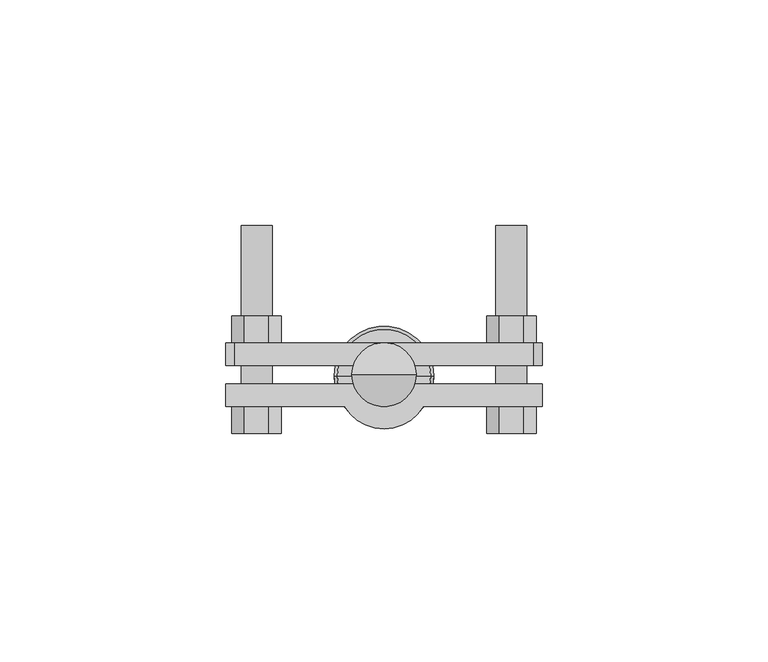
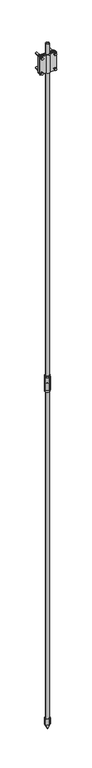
"""IFC4 building model written with IfcOpenShell, lengths in millimetres: proxy geometry, КНС_КомплектВертикальногоЗаземлителя_DKC : NE1114CC_Омеднённая сталь_3м."""

import ifcopenshell
import ifcopenshell.guid

model = None  # the IFC model being written
_history = None  # IfcOwnerHistory: only IFC2X3 demands one
_inside = {}  # id of a spatial element -> (the spatial element, [elements in it])
_under = {}  # id of a project, library or spatial element -> (it, [spatial elements below it])
_declared = {}  # id of a project -> (the project, [libraries it declares])
_typed = {}  # id of a type object -> (the type object, [elements of that type])
_made_of = {}  # id of a material, layer set ... -> (it, [elements and type objects made of it])


def new_model(schema):
    """Start an empty IFC model of exactly this schema.

    Asked for "IFC4X3", IfcOpenShell would pick the latest addendum, in which some entities
    have other attributes; the version numbers below select the first issue.
    IFC2X3 requires an IfcOwnerHistory on every rooted entity: one is made here for all.
    """
    global model, _history
    if schema == "IFC4X3":
        model = ifcopenshell.file(schema_version=(4, 3, 0, 0))
    else:
        model = ifcopenshell.file(schema=schema)
    _inside.clear()
    _under.clear()
    _declared.clear()
    _typed.clear()
    _made_of.clear()
    _history = None
    if model.schema == "IFC2X3":
        org = make("IfcOrganization", Name="unknown")
        user = make(
            "IfcPersonAndOrganization",
            ThePerson=make("IfcPerson", FamilyName="unknown"),
            TheOrganization=org,
        )
        app = make(
            "IfcApplication",
            ApplicationDeveloper=org,
            Version="unknown",
            ApplicationFullName="unknown",
            ApplicationIdentifier="unknown",
        )
        _history = make(
            "IfcOwnerHistory",
            OwningUser=user,
            OwningApplication=app,
            ChangeAction="ADDED",
            CreationDate=0,
        )
    return model


def make(cls, **values):
    """One entity of the class cls with the attributes given. An attribute that is None is left unset."""
    return model.create_entity(
        cls, **{name: value for name, value in values.items() if value is not None}
    )


def rooted(cls, **values):
    """An entity with a GlobalId (a new one), such as an element, a storey or a relation."""
    return make(cls, GlobalId=ifcopenshell.guid.new(), OwnerHistory=_history, **values)


def si_unit(unit_type, name, prefix=None):
    """IfcSIUnit, for example si_unit("LENGTHUNIT", "METRE", prefix="MILLI")."""
    return make("IfcSIUnit", UnitType=unit_type, Prefix=prefix, Name=name)


def assignment(units):
    """IfcUnitAssignment: the units of a project."""
    return None if units is None else make("IfcUnitAssignment", Units=units)


def point(xyz):
    """IfcCartesianPoint."""
    return None if xyz is None else make("IfcCartesianPoint", Coordinates=xyz)


def direction(xyz):
    """IfcDirection."""
    return None if xyz is None else make("IfcDirection", DirectionRatios=xyz)


def frame(location, z_axis=None, x_axis=None):
    """IfcAxis2Placement3D, a coordinate frame: its origin and axes. An axis left out is left unset."""
    return make(
        "IfcAxis2Placement3D",
        Location=point(location),
        Axis=direction(z_axis),
        RefDirection=direction(x_axis),
    )


def frame_2d(location, x_axis=None):
    """IfcAxis2Placement2D, a coordinate frame in the plane: its origin and x axis."""
    return make(
        "IfcAxis2Placement2D", Location=point(location), RefDirection=direction(x_axis)
    )


def origin():
    """The frame at (0, 0, 0) with its axes left unset."""
    return frame((0.0, 0.0, 0.0))


def place(relative_to, where):
    """IfcLocalPlacement: puts the frame where relative to a parent placement (None: the world)."""
    return make(
        "IfcLocalPlacement", PlacementRelTo=relative_to, RelativePlacement=where
    )


def context(
    kind, dimensions, precision=None, world=None, true_north=None, identifier=None
):
    """IfcGeometricRepresentationContext, for example the 3D "Model" context."""
    return make(
        "IfcGeometricRepresentationContext",
        ContextIdentifier=identifier,
        ContextType=kind,
        CoordinateSpaceDimension=dimensions,
        Precision=precision,
        WorldCoordinateSystem=world,
        TrueNorth=true_north,
    )


def project(units=None, contexts=None):
    """IfcProject with its units and contexts."""
    return rooted(
        "IfcProject",
        Name="project",
        RepresentationContexts=contexts,
        UnitsInContext=assignment(units),
    )


def spatial(cls, under=None, at=None, **own):
    """A site, building, storey or space (cls), placed at a placement, below another one or the project."""
    s = rooted(cls, ObjectPlacement=at, **own)
    if under is not None:
        _under.setdefault(under.id(), (under, []))[1].append(s)
    return s


def polyline(points):
    """IfcPolyline through the points."""
    return make("IfcPolyline", Points=[point(p) for p in points])


def circle_curve(where, radius):
    """IfcCircle in the frame where."""
    return make("IfcCircle", Position=where, Radius=radius)


def trimmed(basis, trim1, trim2, sense, master):
    """IfcTrimmedCurve: the piece of a basis curve between two trims."""
    return make(
        "IfcTrimmedCurve",
        BasisCurve=basis,
        Trim1=trim1,
        Trim2=trim2,
        SenseAgreement=sense,
        MasterRepresentation=master,
    )


def segment(curve, same_sense, transition):
    """IfcCompositeCurveSegment."""
    return make(
        "IfcCompositeCurveSegment",
        Transition=transition,
        SameSense=same_sense,
        ParentCurve=curve,
    )


def composite_curve(segments, self_intersect=None):
    """IfcCompositeCurve: segments joined end to end."""
    return make("IfcCompositeCurve", Segments=segments, SelfIntersect=self_intersect)


def outline(outer, holes=None, kind="AREA"):
    """IfcArbitraryClosedProfileDef: a profile drawn as a closed curve; with holes, ...WithVoids."""
    if holes is None:
        return make("IfcArbitraryClosedProfileDef", ProfileType=kind, OuterCurve=outer)
    return make(
        "IfcArbitraryProfileDefWithVoids",
        ProfileType=kind,
        OuterCurve=outer,
        InnerCurves=holes,
    )


def extrude(swept, where, along, depth):
    """IfcExtrudedAreaSolid: the profile swept, set in the frame where, extruded along a direction by depth."""
    return make(
        "IfcExtrudedAreaSolid",
        SweptArea=swept,
        Position=where,
        ExtrudedDirection=direction(along),
        Depth=depth,
    )


def shape(context_of_items, identifier, shape_type, items):
    """IfcShapeRepresentation: the items that make up one representation, for example the "Body"."""
    return make(
        "IfcShapeRepresentation",
        ContextOfItems=context_of_items,
        RepresentationIdentifier=identifier,
        RepresentationType=shape_type,
        Items=items,
    )


def source(mapping_origin, context_of_items, identifier, shape_type, items):
    """IfcRepresentationMap: a shape defined once, which mapped items show again and again."""
    return make(
        "IfcRepresentationMap",
        MappingOrigin=mapping_origin,
        MappedRepresentation=shape(context_of_items, identifier, shape_type, items),
    )


def transform(
    local_origin,
    x_axis=None,
    y_axis=None,
    z_axis=None,
    scale=None,
    scale2=None,
    scale3=None,
    uniform=True,
):
    """IfcCartesianTransformationOperator3D, or its non-uniform kind. x_axis, y_axis, z_axis: its Axis1, 2, 3."""
    if uniform:
        return make(
            "IfcCartesianTransformationOperator3D",
            Axis1=direction(x_axis),
            Axis2=direction(y_axis),
            LocalOrigin=point(local_origin),
            Scale=scale,
            Axis3=direction(z_axis),
        )
    return make(
        "IfcCartesianTransformationOperator3DnonUniform",
        Axis1=direction(x_axis),
        Axis2=direction(y_axis),
        LocalOrigin=point(local_origin),
        Scale=scale,
        Axis3=direction(z_axis),
        Scale2=scale2,
        Scale3=scale3,
    )


def mapped(mapping_source, mapping_target):
    """IfcMappedItem: shows the shape of a source again, moved by a transform."""
    return make(
        "IfcMappedItem", MappingSource=mapping_source, MappingTarget=mapping_target
    )


def made_of(thing, what):
    """Note that an element or type object is made of a material, layer set ...; save() writes the relation."""
    if what is not None:
        _made_of.setdefault(what.id(), (what, []))[1].append(thing)
    return thing


def element(
    cls,
    number,
    at=None,
    inside=None,
    cuts=None,
    type_object=None,
    material=None,
    context=None,
    identifier="Body",
    shape_type=None,
    held_by="IfcProductDefinitionShape",
    body=None,
    shapes=None,
    **own,
):
    """One element of the class cls, such as IfcWall. Its Tag is "e" and its number.

    at: its placement. inside: the storey or other place that contains it. cuts: it is an
    opening in that element (IfcRelVoidsElement). A single representation is given by context,
    identifier, shape_type and body (its items); several are given by shapes. held_by: the class
    of the entity that holds the representations. save() writes the other relations.
    """
    e = rooted(cls, Tag="e%d" % number, ObjectPlacement=at, **own)
    if body is not None:
        shapes = [shape(context, identifier, shape_type, body)]
    if shapes is not None:
        e.Representation = make(held_by, Representations=shapes)
    if inside is not None:
        _inside.setdefault(inside.id(), (inside, []))[1].append(e)
    if cuts is not None:
        rooted(
            "IfcRelVoidsElement", RelatingBuildingElement=cuts, RelatedOpeningElement=e
        )
    if type_object is not None:
        _typed.setdefault(type_object.id(), (type_object, []))[1].append(e)
    return made_of(e, material)


def aggregate(whole, parts):
    """IfcRelAggregates: a whole, such as a stair, and the parts it consists of."""
    return rooted("IfcRelAggregates", RelatingObject=whole, RelatedObjects=parts)


def save(model, path):
    """Write the relations noted so far, then the file.

    IfcRelAggregates (storeys below a building ...), IfcRelContainedInSpatialStructure (elements
    in a storey), IfcRelDefinesByType, IfcRelAssociatesMaterial and IfcRelDeclares: one each for
    every whole, place, type object, material and project.
    """
    for whole, parts in _under.values():
        aggregate(whole, parts)
    for where, things in _inside.values():
        rooted(
            "IfcRelContainedInSpatialStructure",
            RelatedElements=things,
            RelatingStructure=where,
        )
    for kind, things in _typed.values():
        rooted("IfcRelDefinesByType", RelatedObjects=things, RelatingType=kind)
    for what, things in _made_of.values():
        rooted("IfcRelAssociatesMaterial", RelatedObjects=things, RelatingMaterial=what)
    for by, libraries in _declared.values():
        rooted("IfcRelDeclares", RelatingContext=by, RelatedDefinitions=libraries)
    model.write(path)


def plane_surface(at):
    """IfcPlane: the flat surface through the origin of the frame at, square to its z axis."""
    return make("IfcPlane", Position=at)


def cylinder_surface(at, radius):
    """IfcCylindricalSurface: all points at the distance radius from the z axis of the frame at."""
    return make("IfcCylindricalSurface", Position=at, Radius=radius)


def revolved_surface(curve, axis_point, axis_direction):
    """IfcSurfaceOfRevolution: the curve turned about the line through axis_point along axis_direction."""
    return make(
        "IfcSurfaceOfRevolution",
        SweptCurve=make("IfcArbitraryOpenProfileDef", ProfileType="CURVE", Curve=curve),
        AxisPosition=make("IfcAxis1Placement", Location=point(axis_point), Axis=direction(axis_direction)),
    )


def advanced_brep(points, edges, surfaces, faces):
    """IfcAdvancedBrep: a solid bounded by faces that lie on surfaces and meet in shared edges.

    An edge is (start, end): straight between two places in points (the first is 0);
    or (start, end, curve); or (start, end, curve, False) where it runs against its curve.
    A face is (place in surfaces, loops), or (place, loops, False) where it looks against
    its surface's normal. A loop lists edges by number (the first is 1), with a minus sign
    where the edge is run from its end to its start. The first loop is the outer one.
    """
    corners = [point(p) for p in points]
    vertices = [make("IfcVertexPoint", VertexGeometry=c) for c in corners]
    made = []
    for start, end, *more in edges:
        made.append(
            make(
                "IfcEdgeCurve",
                EdgeStart=vertices[start],
                EdgeEnd=vertices[end],
                EdgeGeometry=more[0] if more else make("IfcPolyline", Points=[corners[start], corners[end]]),
                SameSense=more[1] if len(more) > 1 else True,
            )
        )
    hull = []
    for where, loops, *sense in faces:
        bounds = []
        for j, loop in enumerate(loops):
            ring = [make("IfcOrientedEdge", EdgeElement=made[abs(k) - 1], Orientation=k > 0) for k in loop]
            bounds.append(
                make(
                    "IfcFaceOuterBound" if j == 0 else "IfcFaceBound",
                    Bound=make("IfcEdgeLoop", EdgeList=ring),
                    Orientation=True,
                )
            )
        hull.append(make("IfcAdvancedFace", Bounds=bounds, FaceSurface=surfaces[where], SameSense=sense[0] if sense else True))
    return make("IfcAdvancedBrep", Outer=make("IfcClosedShell", CfsFaces=hull))


def security_devices_c975d54c(model_context):
    return source(origin(), model_context, "Body", "SolidModel", [
        extrude(outline(composite_curve([segment(polyline([(-35.0, -7.0), (-35.0, -2.0), (-5.0, -2.0)]), True, "CONTINUOUS"), segment(trimmed(circle_curve(frame_2d((0.0, -2.0)), 5.0), [point((-5.0, -2.0))], [point((5.0, -2.0))], True, "CARTESIAN"), True, "CONTINUOUS"), segment(polyline([(5.0, -2.0), (35.0, -2.0), (35.0, -7.0), (8.660254, -7.0)]), True, "CONTINUOUS"), segment(trimmed(circle_curve(frame_2d((0.0, -2.0)), 10.0), [point((8.660254, -7.0))], [point((-8.660254, -7.0))], False, "CARTESIAN"), True, "CONTINUOUS"), segment(polyline([(-8.660254, -7.0), (-35.0, -7.0)]), True, "CONTINUOUS")], self_intersect=False)), frame((0.0, 0.0, 2960.0), z_axis=(0.0, 0.0, 1.0), x_axis=(1.0, 0.0, 0.0)), (0.0, 0.0, 1.0), 80.0),
        extrude(outline(composite_curve([segment(trimmed(circle_curve(frame_2d((3033.28125, -28.2121057)), 3.4209609), [point((3033.28125, -31.6330666))], [point((3033.28125, -24.7911448))], False, "CARTESIAN"), True, "CONTINUOUS"), segment(trimmed(circle_curve(frame_2d((3033.28125, -28.2121057)), 3.4209609), [point((3033.28125, -24.7911448))], [point((3033.28125, -31.6330666))], False, "CARTESIAN"), True, "CONTINUOUS")], self_intersect=False)), frame((0.0, -7.0, 0.0), z_axis=(0.0, 1.0, 0.0), x_axis=(0.0, 0.0, 1.0)), (0.0, 0.0, 1.0), 40.0),
        extrude(outline(composite_curve([segment(trimmed(circle_curve(frame_2d((3033.28125, 28.2121057)), 3.4209609), [point((3033.28125, 24.7911448))], [point((3033.28125, 31.6330666))], False, "CARTESIAN"), True, "CONTINUOUS"), segment(trimmed(circle_curve(frame_2d((3033.28125, 28.2121057)), 3.4209609), [point((3033.28125, 31.6330666))], [point((3033.28125, 24.7911448))], False, "CARTESIAN"), True, "CONTINUOUS")], self_intersect=False)), frame((0.0, -7.0, 0.0), z_axis=(0.0, 1.0, 0.0), x_axis=(0.0, 0.0, 1.0)), (0.0, 0.0, 1.0), 40.0),
        extrude(outline(composite_curve([segment(trimmed(circle_curve(frame_2d((2966.71875, -28.2121057)), 3.4209609), [point((2966.71875, -31.6330666))], [point((2966.71875, -24.7911448))], False, "CARTESIAN"), True, "CONTINUOUS"), segment(trimmed(circle_curve(frame_2d((2966.71875, -28.2121057)), 3.4209609), [point((2966.71875, -24.7911448))], [point((2966.71875, -31.6330666))], False, "CARTESIAN"), True, "CONTINUOUS")], self_intersect=False)), frame((0.0, -7.0, 0.0), z_axis=(0.0, 1.0, 0.0), x_axis=(0.0, 0.0, 1.0)), (0.0, 0.0, 1.0), 40.0),
        extrude(outline(composite_curve([segment(trimmed(circle_curve(frame_2d((2966.71875, 28.2121057)), 3.4209609), [point((2966.71875, 24.7911448))], [point((2966.71875, 31.6330666))], False, "CARTESIAN"), True, "CONTINUOUS"), segment(trimmed(circle_curve(frame_2d((2966.71875, 28.2121057)), 3.4209609), [point((2966.71875, 31.6330666))], [point((2966.71875, 24.7911448))], False, "CARTESIAN"), True, "CONTINUOUS")], self_intersect=False)), frame((0.0, -7.0, 0.0), z_axis=(0.0, 1.0, 0.0), x_axis=(0.0, 0.0, 1.0)), (0.0, 0.0, 1.0), 40.0),
        extrude(outline(polyline([(3033.3883083, -33.6996224), (3028.6359794, -30.955864), (3028.6359794, -25.4683473), (3033.3883083, -22.724589), (3038.1406371, -25.4683473), (3038.1406371, -30.955864), (3033.3883083, -33.6996224)])), frame((0.0, 7.0, 0.0), z_axis=(0.0, 1.0, 0.0), x_axis=(0.0, 0.0, 1.0)), (0.0, 0.0, 1.0), 6.0),
        extrude(outline(polyline([(3033.3883083, 33.6996224), (3038.1406371, 30.955864), (3038.1406371, 25.4683473), (3033.3883083, 22.724589), (3028.6359794, 25.4683473), (3028.6359794, 30.955864), (3033.3883083, 33.6996224)])), frame((0.0, 7.0, 0.0), z_axis=(0.0, 1.0, 0.0), x_axis=(0.0, 0.0, 1.0)), (0.0, 0.0, 1.0), 6.0),
        extrude(outline(polyline([(2966.6116917, -33.6996224), (2961.8593629, -30.955864), (2961.8593629, -25.4683473), (2966.6116917, -22.724589), (2971.3640206, -25.4683473), (2971.3640206, -30.955864), (2966.6116917, -33.6996224)])), frame((0.0, 7.0, 0.0), z_axis=(0.0, 1.0, 0.0), x_axis=(0.0, 0.0, 1.0)), (0.0, 0.0, 1.0), 6.0),
        extrude(outline(polyline([(2966.6116917, 33.6996224), (2971.3640206, 30.955864), (2971.3640206, 25.4683473), (2966.6116917, 22.724589), (2961.8593629, 25.4683473), (2961.8593629, 30.955864), (2966.6116917, 33.6996224)])), frame((0.0, 7.0, 0.0), z_axis=(0.0, 1.0, 0.0), x_axis=(0.0, 0.0, 1.0)), (0.0, 0.0, 1.0), 6.0),
        extrude(outline(polyline([(3033.3883083, -33.6996224), (3028.6359794, -30.955864), (3028.6359794, -25.4683473), (3033.3883083, -22.724589), (3038.1406371, -25.4683473), (3038.1406371, -30.955864), (3033.3883083, -33.6996224)])), frame((0.0, -13.0, 0.0), z_axis=(0.0, 1.0, 0.0), x_axis=(0.0, 0.0, 1.0)), (0.0, 0.0, 1.0), 6.0),
        extrude(outline(polyline([(3033.3883083, 33.6996224), (3038.1406371, 30.955864), (3038.1406371, 25.4683473), (3033.3883083, 22.724589), (3028.6359794, 25.4683473), (3028.6359794, 30.955864), (3033.3883083, 33.6996224)])), frame((0.0, -13.0, 0.0), z_axis=(0.0, 1.0, 0.0), x_axis=(0.0, 0.0, 1.0)), (0.0, 0.0, 1.0), 6.0),
        extrude(outline(polyline([(2966.6116917, -33.6996224), (2961.8593629, -30.955864), (2961.8593629, -25.4683473), (2966.6116917, -22.724589), (2971.3640206, -25.4683473), (2971.3640206, -30.955864), (2966.6116917, -33.6996224)])), frame((0.0, -13.0, 0.0), z_axis=(0.0, 1.0, 0.0), x_axis=(0.0, 0.0, 1.0)), (0.0, 0.0, 1.0), 6.0),
        extrude(outline(polyline([(2966.6116917, 33.6996224), (2971.3640206, 30.955864), (2971.3640206, 25.4683473), (2966.6116917, 22.724589), (2961.8593629, 25.4683473), (2961.8593629, 30.955864), (2966.6116917, 33.6996224)])), frame((0.0, -13.0, 0.0), z_axis=(0.0, 1.0, 0.0), x_axis=(0.0, 0.0, 1.0)), (0.0, 0.0, 1.0), 6.0),
        extrude(outline(composite_curve([segment(polyline([(3040.0, 33.0), (3040.0, -33.0)]), True, "CONTINUOUS"), segment(trimmed(circle_curve(frame_2d((3038.0, -33.0)), 2.0), [point((3040.0, -33.0))], [point((3038.0, -35.0))], False, "CARTESIAN"), True, "CONTINUOUS"), segment(polyline([(3038.0, -35.0), (2962.0, -35.0)]), True, "CONTINUOUS"), segment(trimmed(circle_curve(frame_2d((2962.0, -33.0)), 2.0), [point((2962.0, -35.0))], [point((2960.0, -33.0))], False, "CARTESIAN"), True, "CONTINUOUS"), segment(polyline([(2960.0, -33.0), (2960.0, 33.0)]), True, "CONTINUOUS"), segment(trimmed(circle_curve(frame_2d((2962.0, 33.0)), 2.0), [point((2960.0, 33.0))], [point((2962.0, 35.0))], False, "CARTESIAN"), True, "CONTINUOUS"), segment(polyline([(2962.0, 35.0), (3038.0, 35.0)]), True, "CONTINUOUS"), segment(trimmed(circle_curve(frame_2d((3038.0, 33.0)), 2.0), [point((3038.0, 35.0))], [point((3040.0, 33.0))], False, "CARTESIAN"), True, "CONTINUOUS")], self_intersect=False)), frame((0.0, 2.0, 0.0), z_axis=(0.0, 1.0, 0.0), x_axis=(0.0, 0.0, 1.0)), (0.0, 0.0, 1.0), 5.0),
        advanced_brep(
        [(-10.3, 0.0, 1522.0), (10.3, 0.0, 1522.0), (7.1, 0.0, 1522.0), (-7.1, 0.0, 1522.0), (-11.0, 0.0, 1529.0), (11.0, 0.0, 1529.0), (-11.0, 0.0, 1585.0), (11.0, 0.0, 1585.0), (-10.3, 0.0, 1592.0), (10.3, 0.0, 1592.0), (-7.1, 0.0, 1592.0), (7.1, 0.0, 1592.0)],
        [
            (0, 1, circle_curve(frame((0.0, 0.0, 1522.0), z_axis=(0.0, 0.0, -1.0), x_axis=(1.0, 0.0, 0.0)), 10.3)),
            (1, 2),
            (2, 3, circle_curve(frame((0.0, 0.0, 1522.0), z_axis=(0.0, 0.0, 1.0), x_axis=(1.0, 0.0, 0.0)), 7.1)),
            (3, 0),
            (1, 0, circle_curve(frame((0.0, 0.0, 1522.0), z_axis=(0.0, 0.0, -1.0), x_axis=(1.0, 0.0, 0.0)), 10.3)),
            (3, 2, circle_curve(frame((0.0, 0.0, 1522.0), z_axis=(0.0, 0.0, 1.0), x_axis=(1.0, 0.0, 0.0)), 7.1)),
            (4, 5, circle_curve(frame((0.0, 0.0, 1529.0), z_axis=(0.0, 0.0, -1.0), x_axis=(1.0, 0.0, 0.0)), 11.0)),
            (5, 1),
            (0, 4),
            (5, 4, circle_curve(frame((0.0, 0.0, 1529.0), z_axis=(0.0, 0.0, -1.0), x_axis=(1.0, 0.0, 0.0)), 11.0)),
            (6, 7, circle_curve(frame((0.0, 0.0, 1585.0), z_axis=(0.0, 0.0, -1.0), x_axis=(1.0, 0.0, 0.0)), 11.0)),
            (7, 5),
            (4, 6),
            (7, 6, circle_curve(frame((0.0, 0.0, 1585.0), z_axis=(0.0, 0.0, -1.0), x_axis=(1.0, 0.0, 0.0)), 11.0)),
            (8, 9, circle_curve(frame((0.0, 0.0, 1592.0), z_axis=(0.0, 0.0, -1.0), x_axis=(1.0, 0.0, 0.0)), 10.3)),
            (9, 7),
            (6, 8),
            (9, 8, circle_curve(frame((0.0, 0.0, 1592.0), z_axis=(0.0, 0.0, -1.0), x_axis=(1.0, 0.0, 0.0)), 10.3)),
            (10, 11, circle_curve(frame((0.0, 0.0, 1592.0), z_axis=(0.0, 0.0, -1.0), x_axis=(1.0, 0.0, 0.0)), 7.1)),
            (11, 9),
            (8, 10),
            (11, 10, circle_curve(frame((0.0, 0.0, 1592.0), z_axis=(0.0, 0.0, -1.0), x_axis=(1.0, 0.0, 0.0)), 7.1)),
            (2, 11),
            (10, 3),
        ],
        [
            plane_surface(frame((0.0, 0.0, 1522.0), z_axis=(0.0, 0.0, -1.0), x_axis=(1.0, 0.0, 0.0))),
            revolved_surface(polyline([(10.3, 0.0, 1522.0), (11.0, 0.0, 1529.0)]), (0.0, 0.0, 1567.0), (0.0, 0.0, 1.0)),
            cylinder_surface(frame((0.0, 0.0, 1567.0), z_axis=(0.0, 0.0, 1.0), x_axis=(1.0, 0.0, 0.0)), 11.0),
            revolved_surface(polyline([(11.0, 0.0, 1585.0), (10.3, 0.0, 1592.0)]), (0.0, 0.0, 1567.0), (0.0, 0.0, 1.0)),
            plane_surface(frame((0.0, 0.0, 1592.0), z_axis=(0.0, 0.0, 1.0), x_axis=(1.0, 0.0, 0.0))),
            revolved_surface(polyline([(7.1, 0.0, 1592.0), (7.1, 0.0, 1522.0)]), (0.0, 0.0, 1567.0), (0.0, 0.0, 1.0)),
        ],
        [
            (0, [[1, 2, 3, 4]]),
            (0, [[5, -4, 6, -2]]),
            (1, [[7, 8, -1, 9]]),
            (1, [[10, -9, -5, -8]]),
            (2, [[11, 12, -7, 13]]),
            (2, [[14, -13, -10, -12]]),
            (3, [[15, 16, -11, 17]]),
            (3, [[18, -17, -14, -16]]),
            (4, [[19, 20, -15, 21]]),
            (4, [[22, -21, -18, -20]]),
            (5, [[-3, 23, -19, 24]]),
            (5, [[-6, -24, -22, -23]]),
        ],
    ),
        advanced_brep(
        [(-7.1, 0.0, 3087.0), (7.1, 0.0, 3087.0), (7.1, 0.0, 1562.0), (-7.1, 0.0, 1562.0), (0.0, 0.0, 3092.0), (0.0, 0.0, 1557.0)],
        [
            (0, 1, circle_curve(frame((0.0, 0.0, 3087.0), z_axis=(0.0, 0.0, -1.0), x_axis=(1.0, 0.0, 0.0)), 7.1)),
            (1, 2),
            (2, 3, circle_curve(frame((0.0, 0.0, 1562.0), z_axis=(0.0, 0.0, 1.0), x_axis=(1.0, 0.0, 0.0)), 7.1)),
            (3, 0),
            (1, 0, circle_curve(frame((0.0, 0.0, 3087.0), z_axis=(0.0, 0.0, -1.0), x_axis=(1.0, 0.0, 0.0)), 7.1)),
            (3, 2, circle_curve(frame((0.0, 0.0, 1562.0), z_axis=(0.0, 0.0, 1.0), x_axis=(1.0, 0.0, 0.0)), 7.1)),
            (4, 1),
            (0, 4),
            (2, 5),
            (5, 3),
        ],
        [
            cylinder_surface(frame((0.0, 0.0, 3077.0), z_axis=(0.0, 0.0, 1.0), x_axis=(1.0, 0.0, 0.0)), 7.1),
            revolved_surface(polyline([(7.1, 0.0, 3087.0), (0.0, 0.0, 3092.0)]), (0.0, 0.0, 3077.0), (0.0, 0.0, 1.0)),
            revolved_surface(polyline([(0.0, 0.0, 1557.0), (7.1, 0.0, 1562.0)]), (0.0, 0.0, 3077.0), (0.0, 0.0, 1.0)),
        ],
        [
            (0, [[1, 2, 3, 4]]),
            (0, [[5, -4, 6, -2]]),
            (1, [[7, -1, 8]]),
            (1, [[-8, -5, -7]]),
            (2, [[-3, 9, 10]]),
            (2, [[-6, -10, -9]]),
        ],
    ),
        advanced_brep(
        [(-7.1, 0.0, 1552.0), (7.1, 0.0, 1552.0), (7.1, 0.0, 27.0), (-7.1, 0.0, 27.0), (0.0, 0.0, 1557.0), (0.0, 0.0, 22.0)],
        [
            (0, 1, circle_curve(frame((0.0, 0.0, 1552.0), z_axis=(0.0, 0.0, -1.0), x_axis=(1.0, 0.0, 0.0)), 7.1)),
            (1, 2),
            (2, 3, circle_curve(frame((0.0, 0.0, 27.0), z_axis=(0.0, 0.0, 1.0), x_axis=(1.0, 0.0, 0.0)), 7.1)),
            (3, 0),
            (1, 0, circle_curve(frame((0.0, 0.0, 1552.0), z_axis=(0.0, 0.0, -1.0), x_axis=(1.0, 0.0, 0.0)), 7.1)),
            (3, 2, circle_curve(frame((0.0, 0.0, 27.0), z_axis=(0.0, 0.0, 1.0), x_axis=(1.0, 0.0, 0.0)), 7.1)),
            (4, 1),
            (0, 4),
            (2, 5),
            (5, 3),
        ],
        [
            cylinder_surface(frame((0.0, 0.0, 1542.0), z_axis=(0.0, 0.0, 1.0), x_axis=(1.0, 0.0, 0.0)), 7.1),
            revolved_surface(polyline([(7.1, 0.0, 1552.0), (0.0, 0.0, 1557.0)]), (0.0, 0.0, 1542.0), (0.0, 0.0, 1.0)),
            revolved_surface(polyline([(0.0, 0.0, 22.0), (7.1, 0.0, 27.0)]), (0.0, 0.0, 1542.0), (0.0, 0.0, 1.0)),
        ],
        [
            (0, [[1, 2, 3, 4]]),
            (0, [[5, -4, 6, -2]]),
            (1, [[7, -1, 8]]),
            (1, [[-8, -5, -7]]),
            (2, [[-3, 9, 10]]),
            (2, [[-6, -10, -9]]),
        ],
    ),
        advanced_brep(
        [(-7.1, 0.0, 49.0), (7.1, 0.0, 49.0), (11.0, 0.0, 49.0), (-11.0, 0.0, 49.0), (-7.1, 0.0, 22.0), (7.1, 0.0, 22.0), (0.0, 0.0, 22.0), (-11.0, 0.0, 23.0), (11.0, 0.0, 23.0), (0.0, 0.0, 0.0)],
        [
            (0, 1, circle_curve(frame((0.0, 0.0, 49.0), z_axis=(0.0, 0.0, -1.0), x_axis=(1.0, 0.0, 0.0)), 7.1)),
            (1, 2),
            (2, 3, circle_curve(frame((0.0, 0.0, 49.0), z_axis=(0.0, 0.0, 1.0), x_axis=(1.0, 0.0, 0.0)), 11.0)),
            (3, 0),
            (1, 0, circle_curve(frame((0.0, 0.0, 49.0), z_axis=(0.0, 0.0, -1.0), x_axis=(1.0, 0.0, 0.0)), 7.1)),
            (3, 2, circle_curve(frame((0.0, 0.0, 49.0), z_axis=(0.0, 0.0, 1.0), x_axis=(1.0, 0.0, 0.0)), 11.0)),
            (4, 5, circle_curve(frame((0.0, 0.0, 22.0), z_axis=(0.0, 0.0, -1.0), x_axis=(1.0, 0.0, 0.0)), 7.1)),
            (5, 1),
            (0, 4),
            (5, 4, circle_curve(frame((0.0, 0.0, 22.0), z_axis=(0.0, 0.0, -1.0), x_axis=(1.0, 0.0, 0.0)), 7.1)),
            (6, 5),
            (4, 6),
            (7, 8, circle_curve(frame((0.0, 0.0, 23.0), z_axis=(0.0, 0.0, -1.0), x_axis=(1.0, 0.0, 0.0)), 11.0)),
            (8, 9),
            (9, 7),
            (8, 7, circle_curve(frame((0.0, 0.0, 23.0), z_axis=(0.0, 0.0, -1.0), x_axis=(1.0, 0.0, 0.0)), 11.0)),
            (2, 8),
            (7, 3),
        ],
        [
            plane_surface(frame((0.0, 0.0, 49.0), z_axis=(0.0, 0.0, 1.0), x_axis=(1.0, 0.0, 0.0))),
            revolved_surface(polyline([(7.1, 0.0, 49.0), (7.1, 0.0, 22.0)]), (0.0, 0.0, 2236.3150031), (0.0, 0.0, 1.0)),
            plane_surface(frame((0.0, 0.0, 22.0), z_axis=(0.0, 0.0, 1.0), x_axis=(1.0, 0.0, 0.0))),
            revolved_surface(polyline([(0.0, 0.0, 0.0), (11.0, 0.0, 23.0)]), (0.0, 0.0, 2236.3150031), (0.0, 0.0, 1.0)),
            cylinder_surface(frame((0.0, 0.0, 2236.3150031), z_axis=(0.0, 0.0, 1.0), x_axis=(1.0, 0.0, 0.0)), 11.0),
        ],
        [
            (0, [[1, 2, 3, 4]]),
            (0, [[5, -4, 6, -2]]),
            (1, [[7, 8, -1, 9]]),
            (1, [[10, -9, -5, -8]]),
            (2, [[11, -7, 12]]),
            (2, [[-12, -10, -11]]),
            (3, [[13, 14, 15]]),
            (3, [[16, -15, -14]]),
            (4, [[-3, 17, -13, 18]]),
            (4, [[-6, -18, -16, -17]]),
        ],
    ),
    ])


if __name__ == "__main__":
    model = new_model("IFC4")
    model_context = context("Model", 3, world=origin())
    ifc_project = project(units=[si_unit("LENGTHUNIT", "METRE", prefix="MILLI")], contexts=[model_context])
    site = spatial("IfcSite", under=ifc_project)
    building = spatial("IfcBuilding", under=site)
    placement = place(None, origin())
    security_devices_shape = security_devices_c975d54c(model_context)
    element("IfcBuildingElementProxy", 1, Name="КНС_КомплектВертикальногоЗаземлителя_DKC : NE1114CC_Омеднённая сталь_3м", ObjectType="КНС_КомплектВертикальногоЗаземлителя_DKC : NE1114CC_Омеднённая сталь_3м", at=placement, inside=building, context=model_context, shape_type="MappedRepresentation", body=[
        mapped(security_devices_shape, transform((0.0, 0.0, 0.0), x_axis=(1.0, 0.0, 0.0), y_axis=(0.0, 1.0, 0.0), z_axis=(0.0, 0.0, 1.0))),
    ])
    save(model, "model.ifc")
